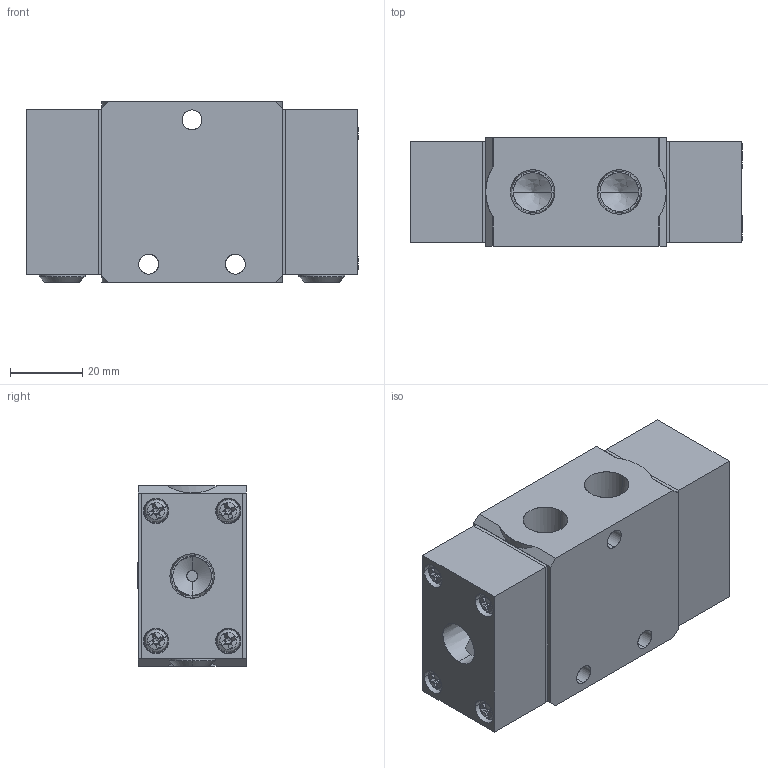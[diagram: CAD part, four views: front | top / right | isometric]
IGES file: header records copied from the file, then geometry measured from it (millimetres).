
Start section: SolidWorks IGES file using analytic representation for surfaces
Global section: file name: D:\Custom\3D繪製\VM\V06,10\VP2306-02.IGS,1; native system: 5HSolidWorks 2014; preprocessor: SolidWorks 2014; author: Chieh_Lu; date: 160114.024149; units: millimetre
Bounding box: 92 x 30.1 x 50 mm (x, y, z)
Surface area: 37659.7 mm2 (no closed solid volume)
Topology: 0 solids, 0 shells, 618 faces, 6310 edges, 6270 vertices
Faces by surface type: bspline 387, revolution 231
